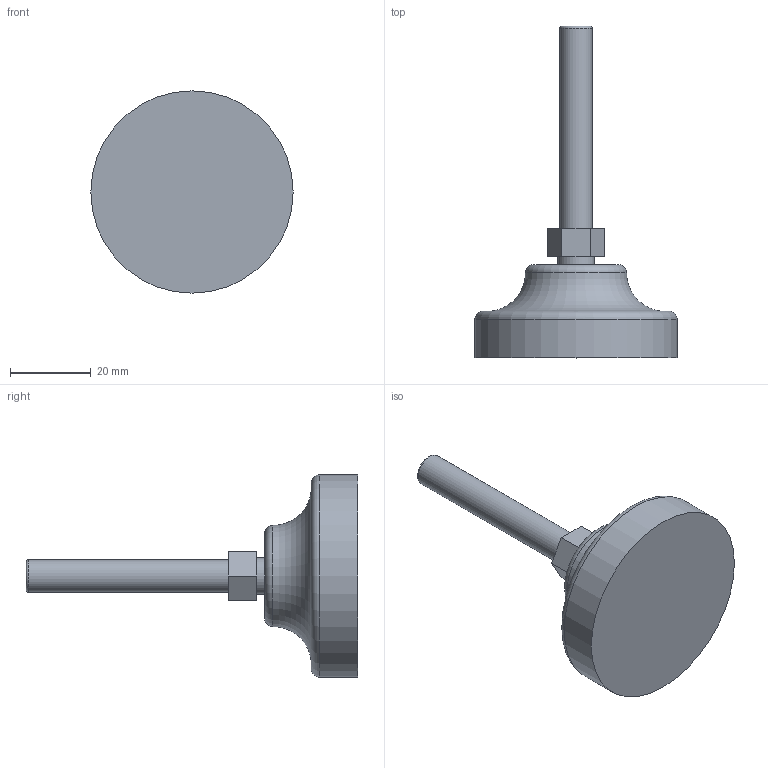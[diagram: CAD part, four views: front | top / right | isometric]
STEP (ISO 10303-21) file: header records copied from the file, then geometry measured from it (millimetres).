
FILE_DESCRIPTION (( 'STEP AP214' ), '1' );
FILE_NAME ('F21812.step', '2024-12-03T16:15:48', ( '' ), ( '' ), 'SwSTEP 2.0', 'SolidWorks 2023', '' );
FILE_SCHEMA (( 'AUTOMOTIVE_DESIGN' ));
Length unit declared in the file: millimetre
Products named in the file (1): F21812
Bounding box: 50 x 82 x 50 mm (x, y, z)
Volume: 33297.9 mm3; surface area: 7874.6 mm2
Topology: 1 solids, 1 shells, 18 faces, 37 edges, 24 vertices
Faces by surface type: plane 11, torus 4, cylinder 3
Full cylindrical faces by diameter (mm): 8 x1, 9 x1, 50 x1
Entity records: 445 total; most frequent: DIRECTION 76, CARTESIAN_POINT 69, ORIENTED_EDGE 56, AXIS2_PLACEMENT_3D 29, EDGE_CURVE 28, EDGE_LOOP 28, FACE_OUTER_BOUND 25, VERTEX_POINT 22
